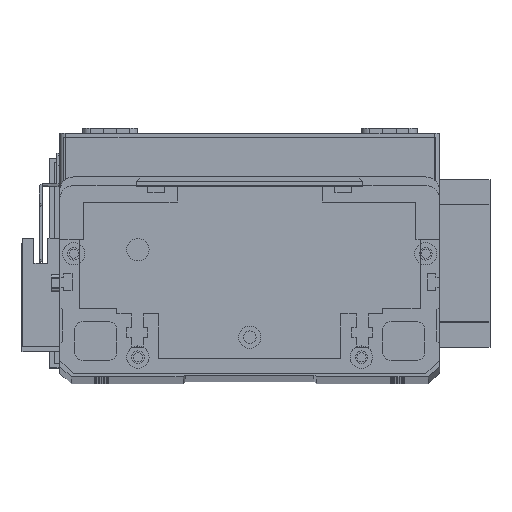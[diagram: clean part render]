
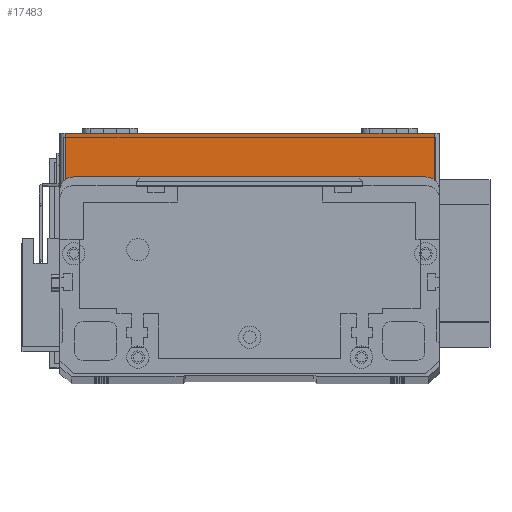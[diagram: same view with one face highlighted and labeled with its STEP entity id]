
A CAD part, top view. The second image highlights one B-rep face of the part: STEP entity #17483.
In plain terms, the highlighted planar face has unit normal (0, 0, 1) as drawn and (0, -1, 0) by its records, which use the part's own axes.
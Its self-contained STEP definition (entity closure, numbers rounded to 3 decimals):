
#45 = VERTEX_POINT ( 'NONE', #28447 ) ;
#160 = FACE_OUTER_BOUND ( 'NONE', #8379, .T. ) ;
#654 = VERTEX_POINT ( 'NONE', #15029 ) ;
#972 = VECTOR ( 'NONE', #23604, 1000. ) ;
#1372 = VERTEX_POINT ( 'NONE', #2193 ) ;
#1619 = DIRECTION ( 'NONE',  ( 0., 0., -1. ) ) ;
#2193 = CARTESIAN_POINT ( 'NONE',  ( 134., 0., 19.5 ) ) ;
#2818 = CARTESIAN_POINT ( 'NONE',  ( 134., 0., 0. ) ) ;
#2872 = EDGE_CURVE ( 'NONE', #654, #14627, #25218, .T. ) ;
#3454 = LINE ( 'NONE', #19263, #20209 ) ;
#4156 = ORIENTED_EDGE ( 'NONE', *, *, #2872, .T. ) ;
#4233 = DIRECTION ( 'NONE',  ( 1., 0., 0. ) ) ;
#4846 = DIRECTION ( 'NONE',  ( 0., 0., 1. ) ) ;
#5512 = ORIENTED_EDGE ( 'NONE', *, *, #13034, .T. ) ;
#6636 = ORIENTED_EDGE ( 'NONE', *, *, #17116, .T. ) ;
#8379 = EDGE_LOOP ( 'NONE', ( #16930, #5512, #4156, #6636 ) ) ;
#8490 = CARTESIAN_POINT ( 'NONE',  ( 2., 0., 19.5 ) ) ;
#11841 = LINE ( 'NONE', #8490, #23259 ) ;
#13034 = EDGE_CURVE ( 'NONE', #45, #654, #11841, .T. ) ;
#13820 = CARTESIAN_POINT ( 'NONE',  ( 0., 0., 19.5 ) ) ;
#14627 = VERTEX_POINT ( 'NONE', #2818 ) ;
#15029 = CARTESIAN_POINT ( 'NONE',  ( 2., 0., 0. ) ) ;
#15123 = LINE ( 'NONE', #26946, #26511 ) ;
#16930 = ORIENTED_EDGE ( 'NONE', *, *, #26543, .F. ) ;
#17116 = EDGE_CURVE ( 'NONE', #14627, #1372, #3454, .T. ) ;
#17483 = ADVANCED_FACE ( 'NONE', ( #160 ), #27561, .F. ) ;
#18531 = DIRECTION ( 'NONE',  ( 0., 1., 0. ) ) ;
#19263 = CARTESIAN_POINT ( 'NONE',  ( 134., 0., 19.5 ) ) ;
#20209 = VECTOR ( 'NONE', #28422, 1000. ) ;
#23259 = VECTOR ( 'NONE', #1619, 1000. ) ;
#23516 = CARTESIAN_POINT ( 'NONE',  ( 0., 0., 0. ) ) ;
#23604 = DIRECTION ( 'NONE',  ( 1., 0., 0. ) ) ;
#25218 = LINE ( 'NONE', #23516, #972 ) ;
#26511 = VECTOR ( 'NONE', #4233, 1000. ) ;
#26543 = EDGE_CURVE ( 'NONE', #45, #1372, #15123, .T. ) ;
#26946 = CARTESIAN_POINT ( 'NONE',  ( 0., 0., 19.5 ) ) ;
#27561 = PLANE ( 'NONE',  #28034 ) ;
#28034 = AXIS2_PLACEMENT_3D ( 'NONE', #13820, #18531, #4846 ) ;
#28422 = DIRECTION ( 'NONE',  ( 0., 0., 1. ) ) ;
#28447 = CARTESIAN_POINT ( 'NONE',  ( 2., 0., 19.5 ) ) ;
